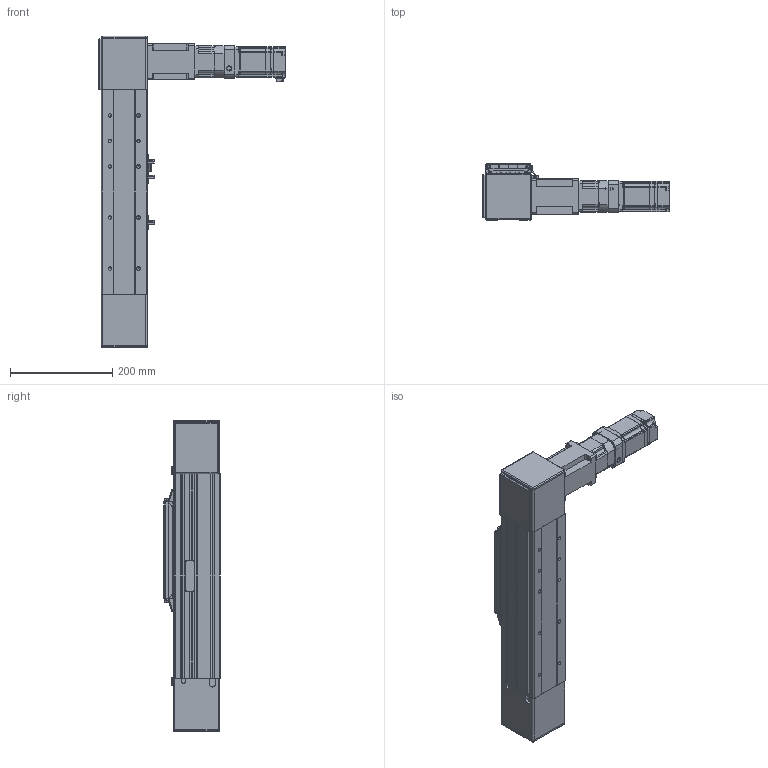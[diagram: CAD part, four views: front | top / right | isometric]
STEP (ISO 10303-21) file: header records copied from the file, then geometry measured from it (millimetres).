
FILE_DESCRIPTION (( 'STEP AP203' ), '1' );
FILE_NAME ('PCB090SRN-0000-ST100-40NR00-N-I3R.STEP', '2015-10-18T23:58:22', ( '' ), ( '' ), 'SwSTEP 2.0', 'SolidWorks 2012', '' );
FILE_SCHEMA (( 'CONFIG_CONTROL_DESIGN' ));
Products named in the file (12): jc42c; sgmjv_04a_a21; PGX62-H-1_3; PCB090SRN-0000-ST100-40NR00-N-I3R; MOTOR BRACKET 62(SHAFT TYPE); PCS90 SENSOR DOG; EE_SX672; 090_SLIDER_END_COVER_ANY; PCB090 Carrier; PCB090 Drive Pulley Block; PCB090 Idler Pulley Block; PCB090 BASE FRAME-100ST
Assembly tree (14 placements, depth 2):
  PCB090SRN-0000-ST100-40NR00-N-I3R
    PCB090 BASE FRAME-100ST
    PCB090 Carrier
    PCB090 Drive Pulley Block
    PCB090 Idler Pulley Block
    090_SLIDER_END_COVER_ANY  x2
    EE_SX672  x3
    PCS90 SENSOR DOG
    MOTOR BRACKET 62(SHAFT TYPE)
    PGX62-H-1_3
    sgmjv_04a_a21
    jc42c
Bounding box: 365.6 x 110 x 610 mm (x, y, z)
Volume: 4237342.5 mm3; surface area: 817412.6 mm2
Topology: 39 solids, 40 shells, 2719 faces, 7195 edges, 4606 vertices
Faces by surface type: plane 1405, cylinder 983, cone 195, bspline 112, torus 16, sphere 8
Entity records: 78814 total; most frequent: CARTESIAN_POINT 18631, ORIENTED_EDGE 12292, DIRECTION 12247, EDGE_CURVE 6171, AXIS2_PLACEMENT_3D 4216, VERTEX_POINT 4007, VECTOR 3815, LINE 3815
